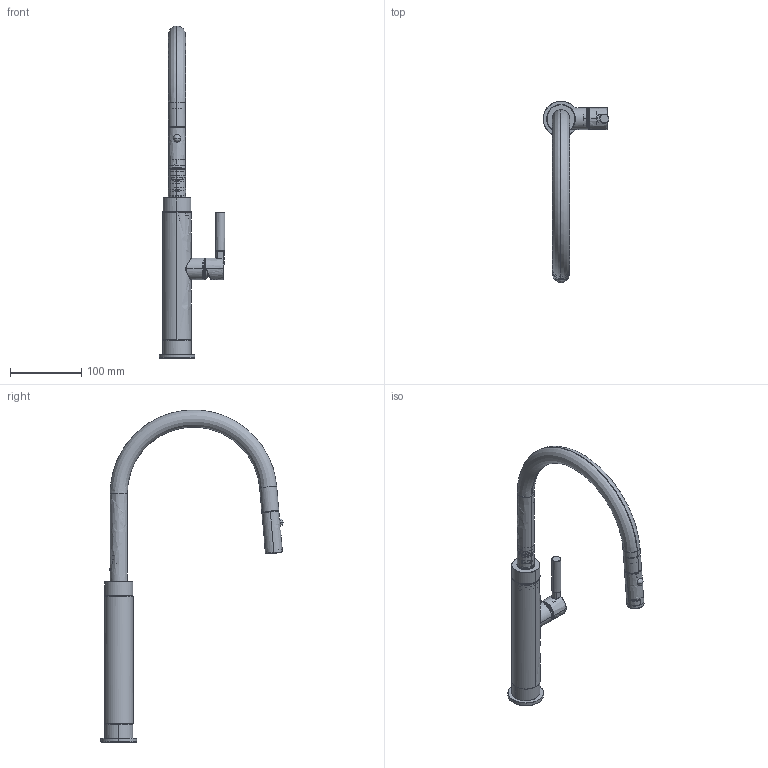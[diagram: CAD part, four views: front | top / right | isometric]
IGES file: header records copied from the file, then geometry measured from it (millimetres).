
Global section: file name: F:\_CONVERSIONE_CAD_2024_2025\_2024\03_3D kits new\Taps\3D001_Taps_Mythos-Masterpiece_Pull-Down-Spray\3D001_Taps_Mythos-Masterpiece_Pull-Down-Spray.igs; native system: Rhinoceros ( Jan  9 2024 ); preprocessor: Trout Lake IGES 012 Jan  9 2024; date: 240312.141724; units: millimetre
Bounding box: 92.1 x 255.42 x 465.79 mm (x, y, z)
Surface area: 179692.2 mm2 (no closed solid volume)
Topology: 0 solids, 0 shells, 3737 faces, 26541 edges, 26528 vertices
Faces by surface type: bspline 3737
